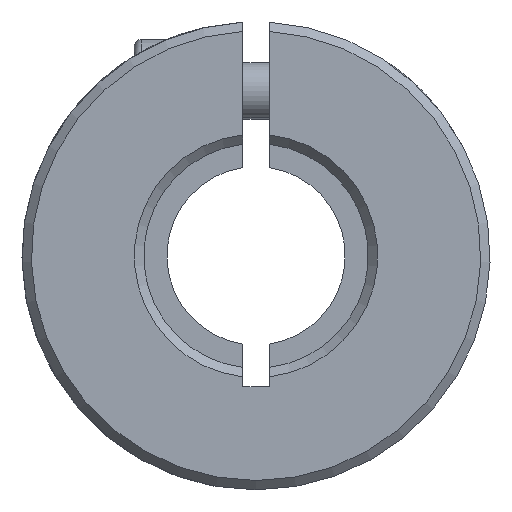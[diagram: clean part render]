
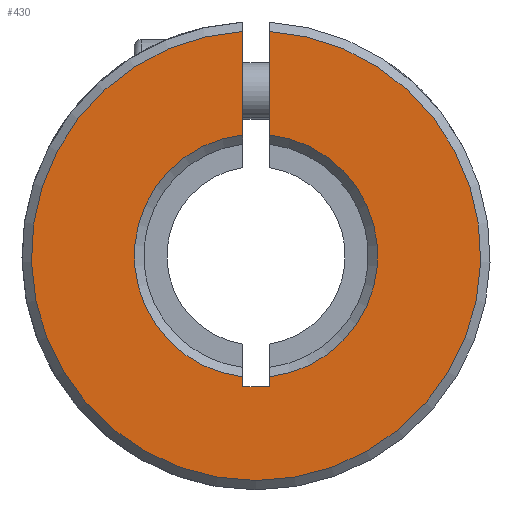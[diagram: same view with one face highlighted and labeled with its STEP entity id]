
A CAD part, front view. The second image highlights one B-rep face of the part: STEP entity #430.
In plain terms, the highlighted planar face has unit normal (0, -1, 0).
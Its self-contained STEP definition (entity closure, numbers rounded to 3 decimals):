
#3 = CARTESIAN_POINT ( 'NONE',  ( -0.7, 0.25, -7. ) ) ;
#84 = DIRECTION ( 'NONE',  ( 0., 0., -1. ) ) ;
#186 = VECTOR ( 'NONE', #84, 1000. ) ;
#233 = DIRECTION ( 'NONE',  ( 0., 1., 0. ) ) ;
#430 = ADVANCED_FACE ( 'NONE', ( #3568 ), #3107, .F. ) ;
#472 = AXIS2_PLACEMENT_3D ( 'NONE', #600, #2278, #2236 ) ;
#600 = CARTESIAN_POINT ( 'NONE',  ( 0., 0.25, 0. ) ) ;
#651 = CIRCLE ( 'NONE', #1079, 6.5 ) ;
#705 = CARTESIAN_POINT ( 'NONE',  ( 0.7, 0.25, -7. ) ) ;
#772 = CARTESIAN_POINT ( 'NONE',  ( -0.7, 0.25, -7. ) ) ;
#913 = EDGE_CURVE ( 'NONE', #2217, #3989, #3186, .T. ) ;
#956 = DIRECTION ( 'NONE',  ( 0., 1., 0. ) ) ;
#1079 = AXIS2_PLACEMENT_3D ( 'NONE', #2154, #3005, #1648 ) ;
#1324 = AXIS2_PLACEMENT_3D ( 'NONE', #4738, #956, #3146 ) ;
#1543 = CARTESIAN_POINT ( 'NONE',  ( 0.7, 0.25, -7. ) ) ;
#1648 = DIRECTION ( 'NONE',  ( 0., 0., 1. ) ) ;
#1759 = CIRCLE ( 'NONE', #1324, 6.5 ) ;
#1771 = EDGE_CURVE ( 'NONE', #2753, #3989, #2043, .T. ) ;
#2001 = CARTESIAN_POINT ( 'NONE',  ( 0.7, 0.25, 11.98 ) ) ;
#2043 = CIRCLE ( 'NONE', #472, 12. ) ;
#2120 = LINE ( 'NONE', #3777, #5265 ) ;
#2154 = CARTESIAN_POINT ( 'NONE',  ( 0., 0.25, 0. ) ) ;
#2156 = VECTOR ( 'NONE', #4878, 1000. ) ;
#2159 = VERTEX_POINT ( 'NONE', #4947 ) ;
#2217 = VERTEX_POINT ( 'NONE', #4072 ) ;
#2236 = DIRECTION ( 'NONE',  ( 0., 0., 1. ) ) ;
#2240 = VERTEX_POINT ( 'NONE', #3667 ) ;
#2268 = DIRECTION ( 'NONE',  ( 0., 0., 1. ) ) ;
#2278 = DIRECTION ( 'NONE',  ( 0., -1., 0. ) ) ;
#2280 = EDGE_CURVE ( 'NONE', #2217, #5091, #651, .T. ) ;
#2451 = EDGE_CURVE ( 'NONE', #2159, #2240, #1759, .T. ) ;
#2505 = ORIENTED_EDGE ( 'NONE', *, *, #5049, .F. ) ;
#2571 = LINE ( 'NONE', #4246, #3455 ) ;
#2692 = ORIENTED_EDGE ( 'NONE', *, *, #2451, .T. ) ;
#2753 = VERTEX_POINT ( 'NONE', #5425 ) ;
#2764 = AXIS2_PLACEMENT_3D ( 'NONE', #3520, #233, #2268 ) ;
#3005 = DIRECTION ( 'NONE',  ( 0., 1., 0. ) ) ;
#3031 = LINE ( 'NONE', #3362, #3629 ) ;
#3107 = PLANE ( 'NONE',  #2764 ) ;
#3146 = DIRECTION ( 'NONE',  ( 0., 0., 1. ) ) ;
#3186 = LINE ( 'NONE', #1543, #2156 ) ;
#3362 = CARTESIAN_POINT ( 'NONE',  ( -0.7, 0.25, -7. ) ) ;
#3420 = LINE ( 'NONE', #3, #186 ) ;
#3429 = DIRECTION ( 'NONE',  ( 1., 0., 0. ) ) ;
#3455 = VECTOR ( 'NONE', #3429, 1000. ) ;
#3520 = CARTESIAN_POINT ( 'NONE',  ( 12.5, 0.25, -50. ) ) ;
#3537 = ORIENTED_EDGE ( 'NONE', *, *, #2280, .T. ) ;
#3568 = FACE_OUTER_BOUND ( 'NONE', #4977, .T. ) ;
#3629 = VECTOR ( 'NONE', #3826, 1000. ) ;
#3648 = EDGE_CURVE ( 'NONE', #2753, #2240, #3031, .T. ) ;
#3667 = CARTESIAN_POINT ( 'NONE',  ( -0.7, 0.25, 6.462 ) ) ;
#3759 = VERTEX_POINT ( 'NONE', #772 ) ;
#3777 = CARTESIAN_POINT ( 'NONE',  ( 0.7, 0.25, -7. ) ) ;
#3826 = DIRECTION ( 'NONE',  ( 0., 0., -1. ) ) ;
#3978 = VERTEX_POINT ( 'NONE', #705 ) ;
#3989 = VERTEX_POINT ( 'NONE', #2001 ) ;
#4072 = CARTESIAN_POINT ( 'NONE',  ( 0.7, 0.25, 6.462 ) ) ;
#4246 = CARTESIAN_POINT ( 'NONE',  ( 0.7, 0.25, -7. ) ) ;
#4362 = ORIENTED_EDGE ( 'NONE', *, *, #913, .F. ) ;
#4738 = CARTESIAN_POINT ( 'NONE',  ( 0., 0.25, 0. ) ) ;
#4878 = DIRECTION ( 'NONE',  ( 0., 0., 1. ) ) ;
#4895 = CARTESIAN_POINT ( 'NONE',  ( 0.7, 0.25, -6.462 ) ) ;
#4947 = CARTESIAN_POINT ( 'NONE',  ( -0.7, 0.25, -6.462 ) ) ;
#4977 = EDGE_LOOP ( 'NONE', ( #4362, #3537, #4986, #2505, #5177, #2692, #5002, #5099 ) ) ;
#4986 = ORIENTED_EDGE ( 'NONE', *, *, #5144, .F. ) ;
#5002 = ORIENTED_EDGE ( 'NONE', *, *, #3648, .F. ) ;
#5049 = EDGE_CURVE ( 'NONE', #3759, #3978, #2571, .T. ) ;
#5091 = VERTEX_POINT ( 'NONE', #4895 ) ;
#5092 = DIRECTION ( 'NONE',  ( 0., 0., 1. ) ) ;
#5099 = ORIENTED_EDGE ( 'NONE', *, *, #1771, .T. ) ;
#5136 = EDGE_CURVE ( 'NONE', #2159, #3759, #3420, .T. ) ;
#5144 = EDGE_CURVE ( 'NONE', #3978, #5091, #2120, .T. ) ;
#5177 = ORIENTED_EDGE ( 'NONE', *, *, #5136, .F. ) ;
#5265 = VECTOR ( 'NONE', #5092, 1000. ) ;
#5425 = CARTESIAN_POINT ( 'NONE',  ( -0.7, 0.25, 11.98 ) ) ;
